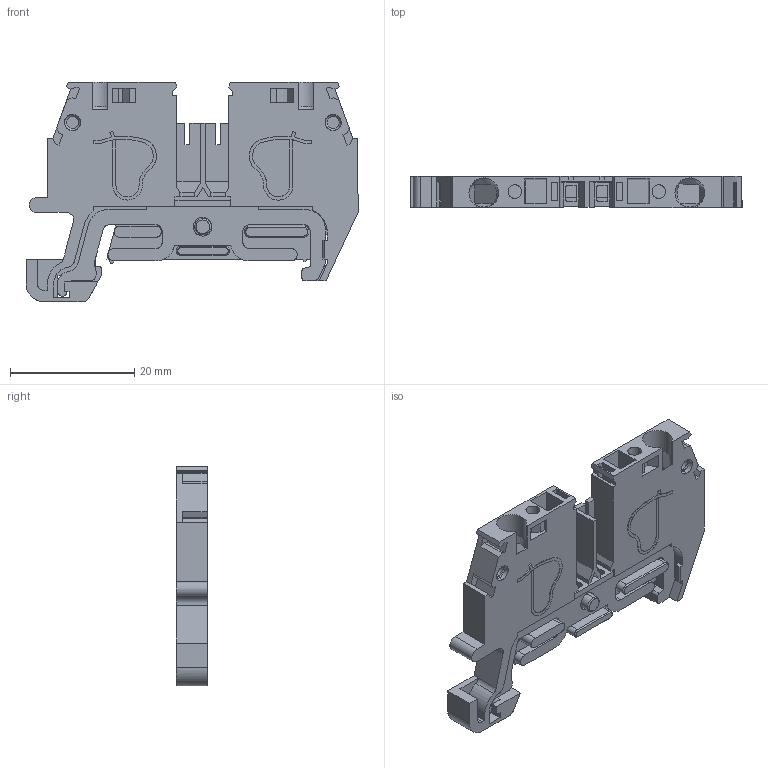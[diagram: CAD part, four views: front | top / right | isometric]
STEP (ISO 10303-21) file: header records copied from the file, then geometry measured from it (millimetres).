
FILE_DESCRIPTION (( 'STEP AP214' ), '1' );
FILE_NAME ('42453_EURO QE_2.5_35.STEP', '2021-03-26T10:49:26', ( '' ), ( '' ), 'SwSTEP 2.0', 'SolidWorks 2020', '' );
FILE_SCHEMA (( 'AUTOMOTIVE_DESIGN' ));
Length unit declared in the file: millimetre
Products named in the file (1): 42453_EURO QE_2.5_35
Bounding box: 53.5 x 5.1 x 35.4 mm (x, y, z)
Volume: 5102.4 mm3; surface area: 5260.2 mm2
Topology: 1 solids, 1 shells, 473 faces, 1331 edges, 871 vertices
Faces by surface type: plane 333, cylinder 114, cone 10, torus 8, bspline 8
Entity records: 17741 total; most frequent: CARTESIAN_POINT 6023, ORIENTED_EDGE 2662, DIRECTION 2031, EDGE_CURVE 1331, LINE 993, VECTOR 993, VERTEX_POINT 871, AXIS2_PLACEMENT_3D 519
